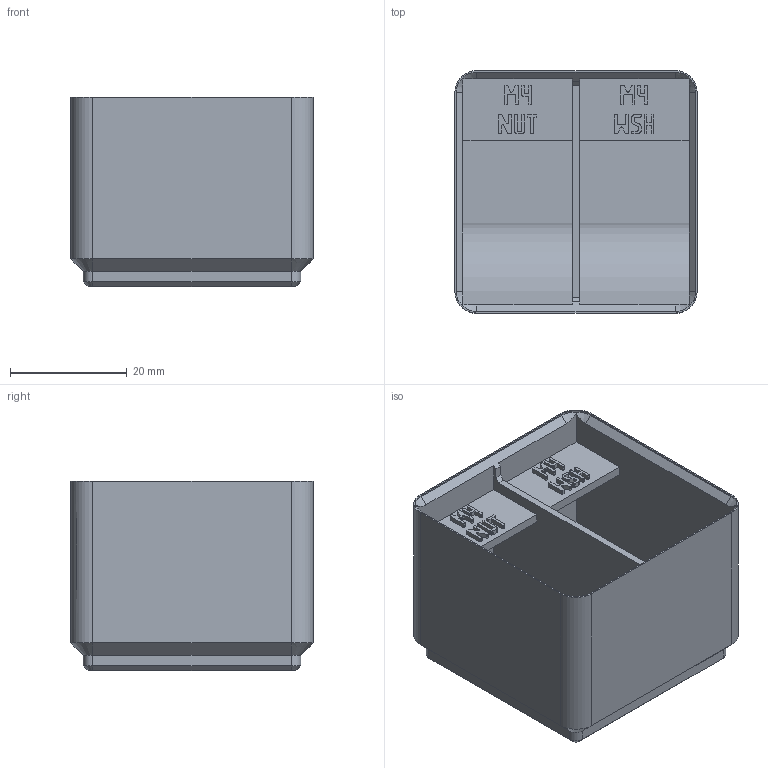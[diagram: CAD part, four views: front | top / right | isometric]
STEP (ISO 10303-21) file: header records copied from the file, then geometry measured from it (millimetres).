
FILE_DESCRIPTION(('Open CASCADE Model'),'2;1');
FILE_NAME('Open CASCADE Shape Model','2026-11-16T13:40:16',('Author'),( 'Open CASCADE'),'Open CASCADE STEP processor 8.0','build123d', 'Unknown');
FILE_SCHEMA(('AUTOMOTIVE_DESIGN { 1 0 10303 214 1 1 1 1 }'));
Products named in the file (1): SOLID
Bounding box: 41.5 x 41.5 x 32.4 mm (x, y, z)
Volume: 23917.8 mm3; surface area: 13471.6 mm2
Topology: 1 solids, 1 shells, 1060 faces, 3103 edges, 2058 vertices
Faces by surface type: plane 1034, cylinder 14, cone 12
Entity records: 72676 total; most frequent: CARTESIAN_POINT 14716, DIRECTION 9305, LINE 7083, VECTOR 7083, ORIENTED_EDGE 6206, PCURVE 6206, DEFINITIONAL_REPRESENTATION 6206, EDGE_CURVE 3103
